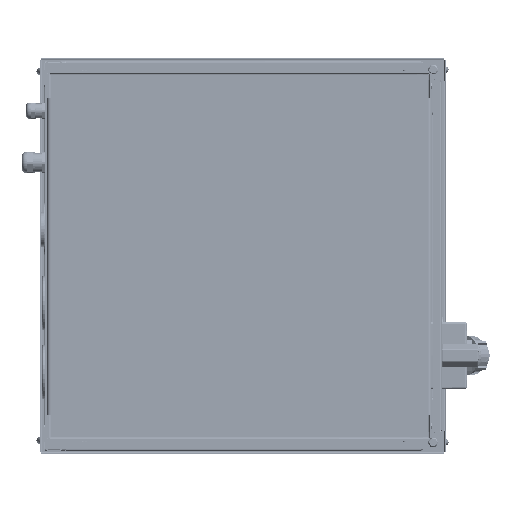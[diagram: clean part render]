
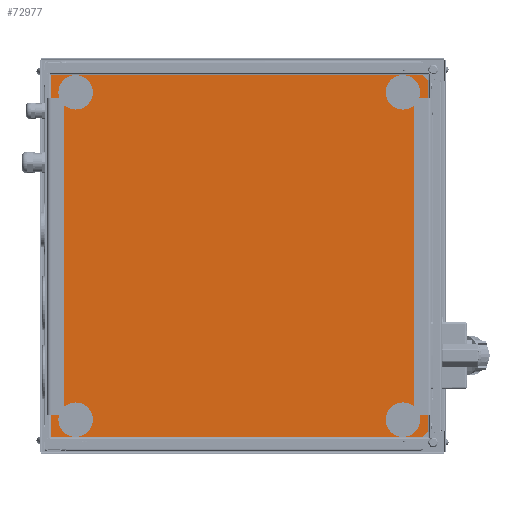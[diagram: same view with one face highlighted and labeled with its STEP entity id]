
A CAD part, front view. The second image highlights one B-rep face of the part: STEP entity #72977.
In plain terms, the highlighted planar face has unit normal (0, -1, 0) as drawn and (0, 0, 1) by its records, which use the part's own axes.
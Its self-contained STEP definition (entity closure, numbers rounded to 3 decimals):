
#6345 = CARTESIAN_POINT ( 'NONE',  ( 211.493, -219., 2. ) ) ;
#6582 = DIRECTION ( 'NONE',  ( 0., 0., 1. ) ) ;
#6741 = EDGE_CURVE ( 'NONE', #218876, #71533, #123767, .T. ) ;
#11959 = VECTOR ( 'NONE', #51825, 1000. ) ;
#13871 = DIRECTION ( 'NONE',  ( 0., 1., 0. ) ) ;
#15944 = DIRECTION ( 'NONE',  ( 0., 0., 1. ) ) ;
#18087 = CIRCLE ( 'NONE', #170546, 5.5 ) ;
#26004 = DIRECTION ( 'NONE',  ( -1., 0., 0. ) ) ;
#26854 = DIRECTION ( 'NONE',  ( 0., 0., 1. ) ) ;
#27702 = FACE_BOUND ( 'NONE', #97665, .T. ) ;
#27814 = DIRECTION ( 'NONE',  ( 0., -1., 0. ) ) ;
#27845 = CARTESIAN_POINT ( 'NONE',  ( 184.5, -190., 2. ) ) ;
#27923 = EDGE_CURVE ( 'NONE', #44872, #185665, #83974, .T. ) ;
#29664 = CARTESIAN_POINT ( 'NONE',  ( -184.5, 190., 2. ) ) ;
#34964 = EDGE_CURVE ( 'NONE', #107204, #230730, #54181, .T. ) ;
#36145 = CARTESIAN_POINT ( 'NONE',  ( -184.5, -190., 2. ) ) ;
#36447 = ORIENTED_EDGE ( 'NONE', *, *, #224942, .F. ) ;
#36832 = AXIS2_PLACEMENT_3D ( 'NONE', #138761, #26854, #157540 ) ;
#40334 = LINE ( 'NONE', #6345, #233279 ) ;
#41869 = EDGE_CURVE ( 'NONE', #169480, #156987, #185641, .T. ) ;
#44872 = VERTEX_POINT ( 'NONE', #239061 ) ;
#46610 = CARTESIAN_POINT ( 'NONE',  ( 210.2, 220.293, 2. ) ) ;
#51825 = DIRECTION ( 'NONE',  ( 1., 0., 0. ) ) ;
#53099 = CARTESIAN_POINT ( 'NONE',  ( 210.2, -213., 2. ) ) ;
#53284 = VECTOR ( 'NONE', #202525, 1000. ) ;
#54181 = LINE ( 'NONE', #149301, #153613 ) ;
#58664 = DIRECTION ( 'NONE',  ( 0., 0., 1. ) ) ;
#58910 = CIRCLE ( 'NONE', #146568, 5.5 ) ;
#58924 = VERTEX_POINT ( 'NONE', #180077 ) ;
#60270 = DIRECTION ( 'NONE',  ( 0., 0., -1. ) ) ;
#61772 = LINE ( 'NONE', #163717, #11959 ) ;
#71533 = VERTEX_POINT ( 'NONE', #115743 ) ;
#72083 = VERTEX_POINT ( 'NONE', #27845 ) ;
#72977 = ADVANCED_FACE ( 'NONE', ( #132976, #127092, #226490, #27702, #220596 ), #93787, .F. ) ;
#76094 = CIRCLE ( 'NONE', #141879, 5.5 ) ;
#82552 = ORIENTED_EDGE ( 'NONE', *, *, #6741, .F. ) ;
#83974 = LINE ( 'NONE', #46610, #177400 ) ;
#83979 = LINE ( 'NONE', #236179, #227064 ) ;
#84362 = DIRECTION ( 'NONE',  ( 0., 0., 1. ) ) ;
#84416 = CARTESIAN_POINT ( 'NONE',  ( -195.5, 190., 2. ) ) ;
#90457 = VERTEX_POINT ( 'NONE', #178933 ) ;
#90662 = CARTESIAN_POINT ( 'NONE',  ( 195.5, -190., 2. ) ) ;
#91161 = CARTESIAN_POINT ( 'NONE',  ( 190., 190., 2. ) ) ;
#93787 = PLANE ( 'NONE',  #145100 ) ;
#94676 = CARTESIAN_POINT ( 'NONE',  ( -190., 190., 2. ) ) ;
#97665 = EDGE_LOOP ( 'NONE', ( #103140, #217688 ) ) ;
#98618 = ORIENTED_EDGE ( 'NONE', *, *, #41869, .F. ) ;
#103140 = ORIENTED_EDGE ( 'NONE', *, *, #122349, .F. ) ;
#103477 = EDGE_CURVE ( 'NONE', #90457, #132342, #18087, .T. ) ;
#105396 = CARTESIAN_POINT ( 'NONE',  ( 190., -190., 2. ) ) ;
#107204 = VERTEX_POINT ( 'NONE', #141722 ) ;
#107708 = ORIENTED_EDGE ( 'NONE', *, *, #156533, .F. ) ;
#108642 = EDGE_CURVE ( 'NONE', #156987, #169480, #58910, .T. ) ;
#109841 = ORIENTED_EDGE ( 'NONE', *, *, #120690, .F. ) ;
#109857 = DIRECTION ( 'NONE',  ( -1., 0., 0. ) ) ;
#113445 = DIRECTION ( 'NONE',  ( 1., 0., 0. ) ) ;
#113684 = AXIS2_PLACEMENT_3D ( 'NONE', #118665, #6582, #137366 ) ;
#114681 = ORIENTED_EDGE ( 'NONE', *, *, #145140, .F. ) ;
#115743 = CARTESIAN_POINT ( 'NONE',  ( 195.5, 190., 2. ) ) ;
#115944 = VERTEX_POINT ( 'NONE', #90662 ) ;
#118665 = CARTESIAN_POINT ( 'NONE',  ( -190., -190., 2. ) ) ;
#120690 = EDGE_CURVE ( 'NONE', #58924, #44872, #61772, .T. ) ;
#122349 = EDGE_CURVE ( 'NONE', #115944, #72083, #174801, .T. ) ;
#123767 = CIRCLE ( 'NONE', #132006, 5.5 ) ;
#124160 = DIRECTION ( 'NONE',  ( 1., 0., 0. ) ) ;
#125748 = EDGE_CURVE ( 'NONE', #72083, #115944, #76094, .T. ) ;
#126871 = ORIENTED_EDGE ( 'NONE', *, *, #108642, .F. ) ;
#127092 = FACE_BOUND ( 'NONE', #201731, .T. ) ;
#127748 = CARTESIAN_POINT ( 'NONE',  ( 210.2, -213., 2. ) ) ;
#127938 = CARTESIAN_POINT ( 'NONE',  ( 190., 190., 2. ) ) ;
#132006 = AXIS2_PLACEMENT_3D ( 'NONE', #91161, #221730, #109857 ) ;
#132342 = VERTEX_POINT ( 'NONE', #36145 ) ;
#132976 = FACE_BOUND ( 'NONE', #239115, .T. ) ;
#137366 = DIRECTION ( 'NONE',  ( -1., 0., 0. ) ) ;
#138761 = CARTESIAN_POINT ( 'NONE',  ( -190., 190., 2. ) ) ;
#141722 = CARTESIAN_POINT ( 'NONE',  ( -210.2, -213., 2. ) ) ;
#141879 = AXIS2_PLACEMENT_3D ( 'NONE', #196112, #84362, #214850 ) ;
#143923 = ORIENTED_EDGE ( 'NONE', *, *, #34964, .T. ) ;
#145100 = AXIS2_PLACEMENT_3D ( 'NONE', #186793, #60270, #190982 ) ;
#145140 = EDGE_CURVE ( 'NONE', #132342, #90457, #221797, .T. ) ;
#145624 = AXIS2_PLACEMENT_3D ( 'NONE', #127938, #15944, #146681 ) ;
#145777 = CARTESIAN_POINT ( 'NONE',  ( 204.2, -219., 2. ) ) ;
#146568 = AXIS2_PLACEMENT_3D ( 'NONE', #94676, #225299, #113445 ) ;
#146681 = DIRECTION ( 'NONE',  ( -1., 0., 0. ) ) ;
#149301 = CARTESIAN_POINT ( 'NONE',  ( -210.2, -213., 2. ) ) ;
#152721 = LINE ( 'NONE', #53099, #53284 ) ;
#153613 = VECTOR ( 'NONE', #224468, 1000. ) ;
#156533 = EDGE_CURVE ( 'NONE', #71533, #218876, #186828, .T. ) ;
#156987 = VERTEX_POINT ( 'NONE', #29664 ) ;
#157540 = DIRECTION ( 'NONE',  ( 1., 0., 0. ) ) ;
#161950 = ORIENTED_EDGE ( 'NONE', *, *, #181103, .T. ) ;
#163717 = CARTESIAN_POINT ( 'NONE',  ( -211.493, 219., 2. ) ) ;
#169480 = VERTEX_POINT ( 'NONE', #84416 ) ;
#170546 = AXIS2_PLACEMENT_3D ( 'NONE', #170568, #58664, #189344 ) ;
#170568 = CARTESIAN_POINT ( 'NONE',  ( -190., -190., 2. ) ) ;
#172673 = EDGE_LOOP ( 'NONE', ( #36447, #143923, #220911, #161950, #189427, #109841 ) ) ;
#174215 = AXIS2_PLACEMENT_3D ( 'NONE', #105396, #236097, #124160 ) ;
#174801 = CIRCLE ( 'NONE', #174215, 5.5 ) ;
#176800 = EDGE_LOOP ( 'NONE', ( #114681, #193198 ) ) ;
#177400 = VECTOR ( 'NONE', #27814, 1000. ) ;
#178933 = CARTESIAN_POINT ( 'NONE',  ( -195.5, -190., 2. ) ) ;
#180077 = CARTESIAN_POINT ( 'NONE',  ( -210.2, 219., 2. ) ) ;
#181103 = EDGE_CURVE ( 'NONE', #222255, #185665, #152721, .T. ) ;
#185641 = CIRCLE ( 'NONE', #36832, 5.5 ) ;
#185665 = VERTEX_POINT ( 'NONE', #127748 ) ;
#186555 = CARTESIAN_POINT ( 'NONE',  ( -204.2, -219., 2. ) ) ;
#186793 = CARTESIAN_POINT ( 'NONE',  ( -214.2, 223., 2. ) ) ;
#186828 = CIRCLE ( 'NONE', #145624, 5.5 ) ;
#189344 = DIRECTION ( 'NONE',  ( -1., 0., 0. ) ) ;
#189427 = ORIENTED_EDGE ( 'NONE', *, *, #27923, .F. ) ;
#190982 = DIRECTION ( 'NONE',  ( -1., 0., 0. ) ) ;
#193198 = ORIENTED_EDGE ( 'NONE', *, *, #103477, .F. ) ;
#196112 = CARTESIAN_POINT ( 'NONE',  ( 190., -190., 2. ) ) ;
#201731 = EDGE_LOOP ( 'NONE', ( #126871, #98618 ) ) ;
#202525 = DIRECTION ( 'NONE',  ( 0.707, 0.707, 0. ) ) ;
#214850 = DIRECTION ( 'NONE',  ( 1., 0., 0. ) ) ;
#217688 = ORIENTED_EDGE ( 'NONE', *, *, #125748, .F. ) ;
#218876 = VERTEX_POINT ( 'NONE', #227002 ) ;
#220596 = FACE_OUTER_BOUND ( 'NONE', #172673, .T. ) ;
#220911 = ORIENTED_EDGE ( 'NONE', *, *, #229812, .F. ) ;
#221730 = DIRECTION ( 'NONE',  ( 0., 0., 1. ) ) ;
#221797 = CIRCLE ( 'NONE', #113684, 5.5 ) ;
#222255 = VERTEX_POINT ( 'NONE', #145777 ) ;
#224468 = DIRECTION ( 'NONE',  ( 0.707, -0.707, 0. ) ) ;
#224942 = EDGE_CURVE ( 'NONE', #107204, #58924, #83979, .T. ) ;
#225299 = DIRECTION ( 'NONE',  ( 0., 0., 1. ) ) ;
#226490 = FACE_BOUND ( 'NONE', #176800, .T. ) ;
#227002 = CARTESIAN_POINT ( 'NONE',  ( 184.5, 190., 2. ) ) ;
#227064 = VECTOR ( 'NONE', #13871, 1000. ) ;
#229812 = EDGE_CURVE ( 'NONE', #222255, #230730, #40334, .T. ) ;
#230730 = VERTEX_POINT ( 'NONE', #186555 ) ;
#233279 = VECTOR ( 'NONE', #26004, 1000. ) ;
#236097 = DIRECTION ( 'NONE',  ( 0., 0., 1. ) ) ;
#236179 = CARTESIAN_POINT ( 'NONE',  ( -210.2, -220.293, 2. ) ) ;
#239061 = CARTESIAN_POINT ( 'NONE',  ( 210.2, 219., 2. ) ) ;
#239115 = EDGE_LOOP ( 'NONE', ( #107708, #82552 ) ) ;
